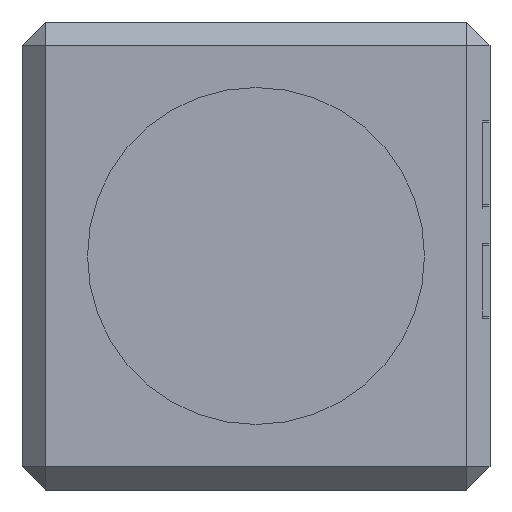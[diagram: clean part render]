
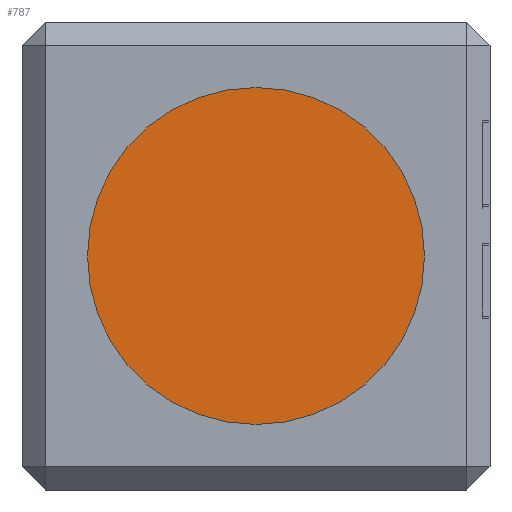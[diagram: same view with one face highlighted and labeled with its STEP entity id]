
A CAD part, front view. The second image highlights one B-rep face of the part: STEP entity #787.
In plain terms, the highlighted planar face has unit normal (0, -1, 0).
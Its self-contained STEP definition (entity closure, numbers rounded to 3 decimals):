
#8 = VERTEX_POINT ( 'NONE', #684 ) ;
#18 = CIRCLE ( 'NONE', #1897, 3.6 ) ;
#53 = CARTESIAN_POINT ( 'NONE',  ( 5., 8.75, -5. ) ) ;
#217 = DIRECTION ( 'NONE',  ( 0., -1., 0. ) ) ;
#256 = ORIENTED_EDGE ( 'NONE', *, *, #1739, .T. ) ;
#401 = CARTESIAN_POINT ( 'NONE',  ( 5., 8.75, -5. ) ) ;
#407 = CIRCLE ( 'NONE', #593, 3.6 ) ;
#410 = PLANE ( 'NONE',  #1310 ) ;
#593 = AXIS2_PLACEMENT_3D ( 'NONE', #53, #217, #1092 ) ;
#628 = EDGE_CURVE ( 'NONE', #1470, #8, #407, .T. ) ;
#656 = ORIENTED_EDGE ( 'NONE', *, *, #628, .T. ) ;
#684 = CARTESIAN_POINT ( 'NONE',  ( 5., 8.75, -8.6 ) ) ;
#711 = DIRECTION ( 'NONE',  ( 0., 0., -1. ) ) ;
#757 = FACE_OUTER_BOUND ( 'NONE', #1547, .T. ) ;
#787 = ADVANCED_FACE ( 'NONE', ( #757 ), #410, .T. ) ;
#1092 = DIRECTION ( 'NONE',  ( 0., 0., -1. ) ) ;
#1310 = AXIS2_PLACEMENT_3D ( 'NONE', #1442, #1582, #711 ) ;
#1431 = DIRECTION ( 'NONE',  ( 0., 0., -1. ) ) ;
#1437 = DIRECTION ( 'NONE',  ( 0., -1., 0. ) ) ;
#1442 = CARTESIAN_POINT ( 'NONE',  ( 5., 8.75, -5. ) ) ;
#1470 = VERTEX_POINT ( 'NONE', #1610 ) ;
#1547 = EDGE_LOOP ( 'NONE', ( #256, #656 ) ) ;
#1582 = DIRECTION ( 'NONE',  ( 0., -1., 0. ) ) ;
#1610 = CARTESIAN_POINT ( 'NONE',  ( 5., 8.75, -1.4 ) ) ;
#1739 = EDGE_CURVE ( 'NONE', #8, #1470, #18, .T. ) ;
#1897 = AXIS2_PLACEMENT_3D ( 'NONE', #401, #1437, #1431 ) ;
